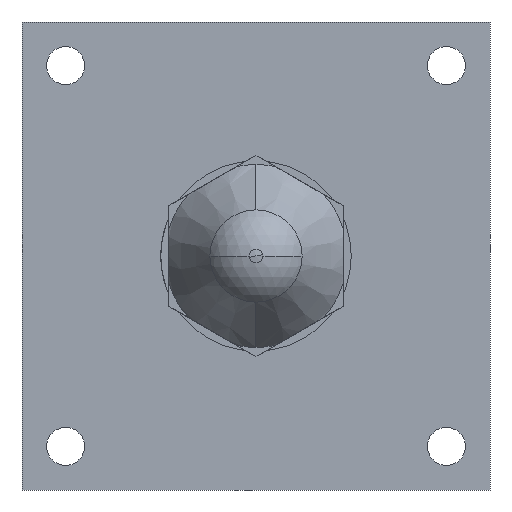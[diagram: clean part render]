
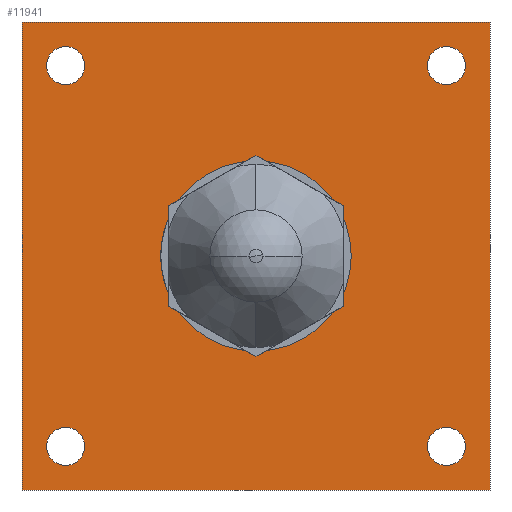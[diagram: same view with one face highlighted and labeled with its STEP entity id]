
A CAD part, left-side view. The second image highlights one B-rep face of the part: STEP entity #11941.
In plain terms, the highlighted planar face has unit normal (-1, 0, 0).
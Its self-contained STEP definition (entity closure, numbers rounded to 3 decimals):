
#64 = CARTESIAN_POINT ( 'NONE',  ( 282., 35., 35. ) ) ;
#149 = AXIS2_PLACEMENT_3D ( 'NONE', #10820, #464, #9672 ) ;
#236 = CARTESIAN_POINT ( 'NONE',  ( 282., 35., 38.5 ) ) ;
#256 = DIRECTION ( 'NONE',  ( 1., 0., 0. ) ) ;
#290 = DIRECTION ( 'NONE',  ( 0., 0., -1. ) ) ;
#464 = DIRECTION ( 'NONE',  ( 1., 0., 0. ) ) ;
#599 = EDGE_LOOP ( 'NONE', ( #11072, #8080 ) ) ;
#643 = CIRCLE ( 'NONE', #13956, 3.5 ) ;
#718 = LINE ( 'NONE', #2040, #5370 ) ;
#1064 = DIRECTION ( 'NONE',  ( -1., 0., 0. ) ) ;
#1122 = VERTEX_POINT ( 'NONE', #4697 ) ;
#1242 = AXIS2_PLACEMENT_3D ( 'NONE', #10207, #13681, #5712 ) ;
#1309 = ORIENTED_EDGE ( 'NONE', *, *, #2665, .T. ) ;
#1454 = CARTESIAN_POINT ( 'NONE',  ( 282., 35., -35. ) ) ;
#1586 = EDGE_CURVE ( 'NONE', #7808, #8356, #9363, .T. ) ;
#2040 = CARTESIAN_POINT ( 'NONE',  ( 282., 43., -43. ) ) ;
#2045 = CARTESIAN_POINT ( 'NONE',  ( 282., 0., 0. ) ) ;
#2087 = DIRECTION ( 'NONE',  ( 0., 0., -1. ) ) ;
#2431 = CARTESIAN_POINT ( 'NONE',  ( 282., -35., 38.5 ) ) ;
#2600 = DIRECTION ( 'NONE',  ( 1., 0., 0. ) ) ;
#2623 = DIRECTION ( 'NONE',  ( 0., 0., -1. ) ) ;
#2665 = EDGE_CURVE ( 'NONE', #5245, #14653, #7001, .T. ) ;
#2724 = CARTESIAN_POINT ( 'NONE',  ( 282., 35., -31.5 ) ) ;
#2921 = VERTEX_POINT ( 'NONE', #7121 ) ;
#3074 = EDGE_LOOP ( 'NONE', ( #11225, #4523, #8366, #3653 ) ) ;
#3135 = VERTEX_POINT ( 'NONE', #14523 ) ;
#3279 = DIRECTION ( 'NONE',  ( 0., -1., 0. ) ) ;
#3399 = CARTESIAN_POINT ( 'NONE',  ( 282., 0., -17.5 ) ) ;
#3594 = CARTESIAN_POINT ( 'NONE',  ( 282., 35., 35. ) ) ;
#3653 = ORIENTED_EDGE ( 'NONE', *, *, #12177, .F. ) ;
#3655 = CARTESIAN_POINT ( 'NONE',  ( 282., -43., -43. ) ) ;
#4161 = EDGE_CURVE ( 'NONE', #4195, #3135, #12452, .T. ) ;
#4195 = VERTEX_POINT ( 'NONE', #236 ) ;
#4523 = ORIENTED_EDGE ( 'NONE', *, *, #7717, .F. ) ;
#4608 = CARTESIAN_POINT ( 'NONE',  ( 282., 43., -43. ) ) ;
#4697 = CARTESIAN_POINT ( 'NONE',  ( 282., -43., -43. ) ) ;
#4732 = EDGE_LOOP ( 'NONE', ( #10484, #11002 ) ) ;
#4864 = DIRECTION ( 'NONE',  ( 0., 0., -1. ) ) ;
#5152 = LINE ( 'NONE', #6047, #10925 ) ;
#5195 = CIRCLE ( 'NONE', #6673, 17.5 ) ;
#5245 = VERTEX_POINT ( 'NONE', #2431 ) ;
#5337 = AXIS2_PLACEMENT_3D ( 'NONE', #1454, #256, #10718 ) ;
#5370 = VECTOR ( 'NONE', #11183, 1000. ) ;
#5375 = EDGE_LOOP ( 'NONE', ( #13040, #8916 ) ) ;
#5492 = CIRCLE ( 'NONE', #10772, 17.5 ) ;
#5589 = EDGE_CURVE ( 'NONE', #11037, #8675, #5953, .T. ) ;
#5683 = CIRCLE ( 'NONE', #10570, 3.5 ) ;
#5699 = CIRCLE ( 'NONE', #7855, 3.5 ) ;
#5712 = DIRECTION ( 'NONE',  ( 0., 0., 1. ) ) ;
#5953 = CIRCLE ( 'NONE', #13342, 3.5 ) ;
#6047 = CARTESIAN_POINT ( 'NONE',  ( 282., -43., -43. ) ) ;
#6284 = DIRECTION ( 'NONE',  ( 1., 0., 0. ) ) ;
#6644 = CARTESIAN_POINT ( 'NONE',  ( 282., 0., 0. ) ) ;
#6645 = EDGE_CURVE ( 'NONE', #1122, #7382, #7564, .T. ) ;
#6673 = AXIS2_PLACEMENT_3D ( 'NONE', #11428, #1064, #10179 ) ;
#6993 = AXIS2_PLACEMENT_3D ( 'NONE', #6644, #10897, #2087 ) ;
#7001 = CIRCLE ( 'NONE', #1242, 3.5 ) ;
#7091 = VERTEX_POINT ( 'NONE', #10309 ) ;
#7121 = CARTESIAN_POINT ( 'NONE',  ( 282., -35., -31.5 ) ) ;
#7225 = DIRECTION ( 'NONE',  ( 0., 1., 0. ) ) ;
#7333 = FACE_BOUND ( 'NONE', #8521, .T. ) ;
#7382 = VERTEX_POINT ( 'NONE', #4608 ) ;
#7458 = DIRECTION ( 'NONE',  ( 0., 0., 1. ) ) ;
#7564 = LINE ( 'NONE', #3655, #11704 ) ;
#7585 = EDGE_LOOP ( 'NONE', ( #9804, #1309 ) ) ;
#7717 = EDGE_CURVE ( 'NONE', #7382, #7808, #718, .T. ) ;
#7808 = VERTEX_POINT ( 'NONE', #8982 ) ;
#7855 = AXIS2_PLACEMENT_3D ( 'NONE', #64, #9314, #2623 ) ;
#7998 = CARTESIAN_POINT ( 'NONE',  ( 282., -35., -35. ) ) ;
#8080 = ORIENTED_EDGE ( 'NONE', *, *, #11085, .T. ) ;
#8356 = VERTEX_POINT ( 'NONE', #13833 ) ;
#8366 = ORIENTED_EDGE ( 'NONE', *, *, #6645, .F. ) ;
#8521 = EDGE_LOOP ( 'NONE', ( #10241, #12251 ) ) ;
#8675 = VERTEX_POINT ( 'NONE', #14790 ) ;
#8916 = ORIENTED_EDGE ( 'NONE', *, *, #4161, .T. ) ;
#8982 = CARTESIAN_POINT ( 'NONE',  ( 282., 43., 43. ) ) ;
#9118 = EDGE_CURVE ( 'NONE', #7091, #13172, #5195, .T. ) ;
#9182 = CARTESIAN_POINT ( 'NONE',  ( 282., -35., 31.5 ) ) ;
#9310 = FACE_BOUND ( 'NONE', #599, .T. ) ;
#9314 = DIRECTION ( 'NONE',  ( 1., 0., 0. ) ) ;
#9363 = LINE ( 'NONE', #12439, #13161 ) ;
#9543 = CARTESIAN_POINT ( 'NONE',  ( 282., -35., 35. ) ) ;
#9548 = DIRECTION ( 'NONE',  ( 1., 0., 0. ) ) ;
#9672 = DIRECTION ( 'NONE',  ( 0., 0., -1. ) ) ;
#9677 = FACE_BOUND ( 'NONE', #4732, .T. ) ;
#9804 = ORIENTED_EDGE ( 'NONE', *, *, #14909, .T. ) ;
#10024 = FACE_OUTER_BOUND ( 'NONE', #3074, .T. ) ;
#10179 = DIRECTION ( 'NONE',  ( 0., 0., -1. ) ) ;
#10204 = CIRCLE ( 'NONE', #5337, 3.5 ) ;
#10207 = CARTESIAN_POINT ( 'NONE',  ( 282., -35., 35. ) ) ;
#10241 = ORIENTED_EDGE ( 'NONE', *, *, #14460, .F. ) ;
#10309 = CARTESIAN_POINT ( 'NONE',  ( 282., 0., 17.5 ) ) ;
#10419 = CARTESIAN_POINT ( 'NONE',  ( 282., -35., -38.5 ) ) ;
#10484 = ORIENTED_EDGE ( 'NONE', *, *, #13731, .T. ) ;
#10570 = AXIS2_PLACEMENT_3D ( 'NONE', #7998, #14147, #4864 ) ;
#10718 = DIRECTION ( 'NONE',  ( 0., 0., 1. ) ) ;
#10759 = FACE_BOUND ( 'NONE', #7585, .T. ) ;
#10772 = AXIS2_PLACEMENT_3D ( 'NONE', #2045, #13575, #12453 ) ;
#10820 = CARTESIAN_POINT ( 'NONE',  ( 282., -35., -35. ) ) ;
#10897 = DIRECTION ( 'NONE',  ( 1., 0., 0. ) ) ;
#10925 = VECTOR ( 'NONE', #11790, 1000. ) ;
#11002 = ORIENTED_EDGE ( 'NONE', *, *, #5589, .T. ) ;
#11037 = VERTEX_POINT ( 'NONE', #2724 ) ;
#11072 = ORIENTED_EDGE ( 'NONE', *, *, #13901, .T. ) ;
#11085 = EDGE_CURVE ( 'NONE', #2921, #11757, #12556, .T. ) ;
#11183 = DIRECTION ( 'NONE',  ( 0., 0., 1. ) ) ;
#11225 = ORIENTED_EDGE ( 'NONE', *, *, #1586, .F. ) ;
#11428 = CARTESIAN_POINT ( 'NONE',  ( 282., 0., 0. ) ) ;
#11704 = VECTOR ( 'NONE', #7225, 1000. ) ;
#11757 = VERTEX_POINT ( 'NONE', #10419 ) ;
#11790 = DIRECTION ( 'NONE',  ( 0., 0., -1. ) ) ;
#11941 = ADVANCED_FACE ( 'NONE', ( #7333, #10759, #9310, #9677, #13634, #10024 ), #12094, .F. ) ;
#12094 = PLANE ( 'NONE',  #6993 ) ;
#12177 = EDGE_CURVE ( 'NONE', #8356, #1122, #5152, .T. ) ;
#12230 = AXIS2_PLACEMENT_3D ( 'NONE', #3594, #9548, #290 ) ;
#12251 = ORIENTED_EDGE ( 'NONE', *, *, #9118, .F. ) ;
#12439 = CARTESIAN_POINT ( 'NONE',  ( 282., -43., 43. ) ) ;
#12452 = CIRCLE ( 'NONE', #12230, 3.5 ) ;
#12453 = DIRECTION ( 'NONE',  ( 0., 0., -1. ) ) ;
#12556 = CIRCLE ( 'NONE', #149, 3.5 ) ;
#12839 = EDGE_CURVE ( 'NONE', #3135, #4195, #5699, .T. ) ;
#13019 = DIRECTION ( 'NONE',  ( 0., 0., 1. ) ) ;
#13040 = ORIENTED_EDGE ( 'NONE', *, *, #12839, .T. ) ;
#13161 = VECTOR ( 'NONE', #3279, 1000. ) ;
#13172 = VERTEX_POINT ( 'NONE', #3399 ) ;
#13207 = CARTESIAN_POINT ( 'NONE',  ( 282., 35., -35. ) ) ;
#13342 = AXIS2_PLACEMENT_3D ( 'NONE', #13207, #6284, #7458 ) ;
#13575 = DIRECTION ( 'NONE',  ( -1., 0., 0. ) ) ;
#13634 = FACE_BOUND ( 'NONE', #5375, .T. ) ;
#13681 = DIRECTION ( 'NONE',  ( 1., 0., 0. ) ) ;
#13731 = EDGE_CURVE ( 'NONE', #8675, #11037, #10204, .T. ) ;
#13833 = CARTESIAN_POINT ( 'NONE',  ( 282., -43., 43. ) ) ;
#13901 = EDGE_CURVE ( 'NONE', #11757, #2921, #5683, .T. ) ;
#13956 = AXIS2_PLACEMENT_3D ( 'NONE', #9543, #2600, #13019 ) ;
#14147 = DIRECTION ( 'NONE',  ( 1., 0., 0. ) ) ;
#14460 = EDGE_CURVE ( 'NONE', #13172, #7091, #5492, .T. ) ;
#14523 = CARTESIAN_POINT ( 'NONE',  ( 282., 35., 31.5 ) ) ;
#14653 = VERTEX_POINT ( 'NONE', #9182 ) ;
#14790 = CARTESIAN_POINT ( 'NONE',  ( 282., 35., -38.5 ) ) ;
#14909 = EDGE_CURVE ( 'NONE', #14653, #5245, #643, .T. ) ;
